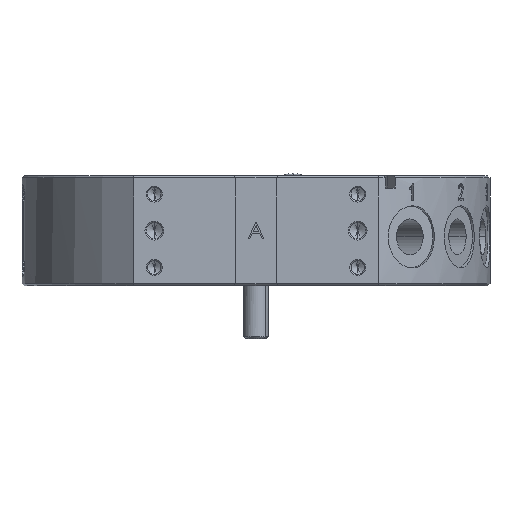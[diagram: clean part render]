
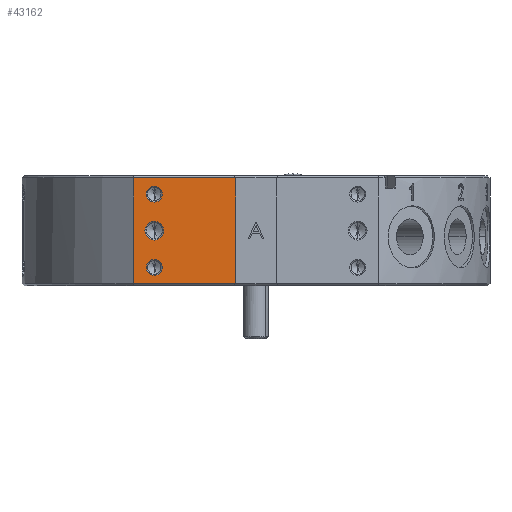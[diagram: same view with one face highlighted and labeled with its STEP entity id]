
A CAD part, front view. The second image highlights one B-rep face of the part: STEP entity #43162.
In plain terms, the highlighted planar face has unit normal (0, -1, 0).
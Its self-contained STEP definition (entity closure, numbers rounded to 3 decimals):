
#3 = DIRECTION ( 'NONE',  ( 0., 0., -1. ) ) ;
#58 = DIRECTION ( 'NONE',  ( 0., 1., 0. ) ) ;
#67 = CARTESIAN_POINT ( 'NONE',  ( -25., -49., -22.5 ) ) ;
#166 = CARTESIAN_POINT ( 'NONE',  ( -25., -49., -2.55 ) ) ;
#179 = ORIENTED_EDGE ( 'NONE', *, *, #15803, .T. ) ;
#205 = CARTESIAN_POINT ( 'NONE',  ( -5., -49., -37.77 ) ) ;
#262 = AXIS2_PLACEMENT_3D ( 'NONE', #26944, #26883, #26844 ) ;
#362 = DIRECTION ( 'NONE',  ( 0., 0., 1. ) ) ;
#1961 = DIRECTION ( 'NONE',  ( 0., 0., -1. ) ) ;
#2737 = CARTESIAN_POINT ( 'NONE',  ( -5., -49., -26.5 ) ) ;
#4836 = EDGE_LOOP ( 'NONE', ( #179, #25278 ) ) ;
#4874 = EDGE_CURVE ( 'NONE', #36311, #39656, #17503, .T. ) ;
#4991 = EDGE_LOOP ( 'NONE', ( #21405, #7159 ) ) ;
#5831 = DIRECTION ( 'NONE',  ( 0., 1., 0. ) ) ;
#5839 = CARTESIAN_POINT ( 'NONE',  ( -25., -49., -22.5 ) ) ;
#5935 = AXIS2_PLACEMENT_3D ( 'NONE', #67, #58, #3 ) ;
#5939 = EDGE_CURVE ( 'NONE', #24355, #23673, #40677, .T. ) ;
#6156 = EDGE_CURVE ( 'NONE', #36677, #24355, #37171, .T. ) ;
#6700 = AXIS2_PLACEMENT_3D ( 'NONE', #21615, #25518, #1961 ) ;
#7159 = ORIENTED_EDGE ( 'NONE', *, *, #4874, .T. ) ;
#7291 = CARTESIAN_POINT ( 'NONE',  ( -5., -49., -0.5 ) ) ;
#8124 = CIRCLE ( 'NONE', #5935, 1.95 ) ;
#9519 = EDGE_LOOP ( 'NONE', ( #34916, #37637, #26960, #28708 ) ) ;
#9551 = LINE ( 'NONE', #21506, #10726 ) ;
#10189 = FACE_BOUND ( 'NONE', #4991, .T. ) ;
#10361 = CARTESIAN_POINT ( 'NONE',  ( -30.087, -49., -26.5 ) ) ;
#10449 = AXIS2_PLACEMENT_3D ( 'NONE', #24957, #24858, #24626 ) ;
#10707 = VERTEX_POINT ( 'NONE', #40557 ) ;
#10726 = VECTOR ( 'NONE', #21288, 1000. ) ;
#10928 = FACE_BOUND ( 'NONE', #4836, .T. ) ;
#11538 = FACE_OUTER_BOUND ( 'NONE', #9519, .T. ) ;
#11579 = FACE_BOUND ( 'NONE', #25521, .T. ) ;
#11873 = VERTEX_POINT ( 'NONE', #40413 ) ;
#12181 = CIRCLE ( 'NONE', #37642, 1.95 ) ;
#12436 = AXIS2_PLACEMENT_3D ( 'NONE', #5839, #5831, #12629 ) ;
#12629 = DIRECTION ( 'NONE',  ( 0., 0., -1. ) ) ;
#14602 = EDGE_CURVE ( 'NONE', #23673, #10707, #9551, .T. ) ;
#14896 = EDGE_CURVE ( 'NONE', #20317, #32636, #12181, .T. ) ;
#15470 = DIRECTION ( 'NONE',  ( 0., 0., -1. ) ) ;
#15512 = DIRECTION ( 'NONE',  ( 0., 1., 0. ) ) ;
#15531 = CARTESIAN_POINT ( 'NONE',  ( -25., -49., -4.5 ) ) ;
#15747 = EDGE_CURVE ( 'NONE', #11873, #24075, #29207, .T. ) ;
#15803 = EDGE_CURVE ( 'NONE', #32636, #20317, #31248, .T. ) ;
#16947 = EDGE_CURVE ( 'NONE', #24075, #11873, #35082, .T. ) ;
#17503 = CIRCLE ( 'NONE', #12436, 1.95 ) ;
#17732 = DIRECTION ( 'NONE',  ( 0., 0., -1. ) ) ;
#17909 = DIRECTION ( 'NONE',  ( 0., 1., 0. ) ) ;
#18073 = CARTESIAN_POINT ( 'NONE',  ( -25., -49., -4.5 ) ) ;
#18166 = EDGE_CURVE ( 'NONE', #39656, #36311, #8124, .T. ) ;
#20317 = VERTEX_POINT ( 'NONE', #166 ) ;
#21288 = DIRECTION ( 'NONE',  ( -1., 0., 0. ) ) ;
#21405 = ORIENTED_EDGE ( 'NONE', *, *, #18166, .T. ) ;
#21506 = CARTESIAN_POINT ( 'NONE',  ( -30.087, -49., -0.5 ) ) ;
#21615 = CARTESIAN_POINT ( 'NONE',  ( -30.087, -49., -27. ) ) ;
#22585 = VECTOR ( 'NONE', #27214, 1000. ) ;
#23673 = VERTEX_POINT ( 'NONE', #7291 ) ;
#24075 = VERTEX_POINT ( 'NONE', #47441 ) ;
#24355 = VERTEX_POINT ( 'NONE', #2737 ) ;
#24626 = DIRECTION ( 'NONE',  ( 0., 0., -1. ) ) ;
#24739 = LINE ( 'NONE', #31041, #22585 ) ;
#24858 = DIRECTION ( 'NONE',  ( 0., 1., 0. ) ) ;
#24957 = CARTESIAN_POINT ( 'NONE',  ( -25., -49., -13.5 ) ) ;
#25083 = CARTESIAN_POINT ( 'NONE',  ( -25., -49., -6.45 ) ) ;
#25278 = ORIENTED_EDGE ( 'NONE', *, *, #14896, .T. ) ;
#25518 = DIRECTION ( 'NONE',  ( 0., -1., 0. ) ) ;
#25521 = EDGE_LOOP ( 'NONE', ( #49121, #41698 ) ) ;
#26844 = DIRECTION ( 'NONE',  ( 0., 0., -1. ) ) ;
#26883 = DIRECTION ( 'NONE',  ( 0., 1., 0. ) ) ;
#26944 = CARTESIAN_POINT ( 'NONE',  ( -25., -49., -13.5 ) ) ;
#26960 = ORIENTED_EDGE ( 'NONE', *, *, #46810, .F. ) ;
#27214 = DIRECTION ( 'NONE',  ( 0., 0., 1. ) ) ;
#28708 = ORIENTED_EDGE ( 'NONE', *, *, #6156, .T. ) ;
#28760 = AXIS2_PLACEMENT_3D ( 'NONE', #18073, #17909, #17732 ) ;
#29207 = CIRCLE ( 'NONE', #10449, 2.3 ) ;
#31041 = CARTESIAN_POINT ( 'NONE',  ( -30.087, -49., -27. ) ) ;
#31248 = CIRCLE ( 'NONE', #28760, 1.95 ) ;
#32285 = CARTESIAN_POINT ( 'NONE',  ( -25., -49., -24.45 ) ) ;
#32636 = VERTEX_POINT ( 'NONE', #25083 ) ;
#34916 = ORIENTED_EDGE ( 'NONE', *, *, #5939, .T. ) ;
#35082 = CIRCLE ( 'NONE', #262, 2.3 ) ;
#36086 = CARTESIAN_POINT ( 'NONE',  ( -5.5, -49., -26.5 ) ) ;
#36241 = DIRECTION ( 'NONE',  ( 1., 0., 0. ) ) ;
#36311 = VERTEX_POINT ( 'NONE', #38942 ) ;
#36677 = VERTEX_POINT ( 'NONE', #10361 ) ;
#36867 = VECTOR ( 'NONE', #36241, 1000. ) ;
#37171 = LINE ( 'NONE', #36086, #36867 ) ;
#37637 = ORIENTED_EDGE ( 'NONE', *, *, #14602, .T. ) ;
#37642 = AXIS2_PLACEMENT_3D ( 'NONE', #15531, #15512, #15470 ) ;
#38942 = CARTESIAN_POINT ( 'NONE',  ( -25., -49., -20.55 ) ) ;
#39656 = VERTEX_POINT ( 'NONE', #32285 ) ;
#40413 = CARTESIAN_POINT ( 'NONE',  ( -25., -49., -11.2 ) ) ;
#40557 = CARTESIAN_POINT ( 'NONE',  ( -30.087, -49., -0.5 ) ) ;
#40619 = VECTOR ( 'NONE', #362, 1000. ) ;
#40677 = LINE ( 'NONE', #205, #40619 ) ;
#41698 = ORIENTED_EDGE ( 'NONE', *, *, #15747, .T. ) ;
#43162 = ADVANCED_FACE ( 'NONE', ( #10189, #11579, #10928, #11538 ), #44330, .T. ) ;
#44330 = PLANE ( 'NONE',  #6700 ) ;
#46810 = EDGE_CURVE ( 'NONE', #36677, #10707, #24739, .T. ) ;
#47441 = CARTESIAN_POINT ( 'NONE',  ( -25., -49., -15.8 ) ) ;
#49121 = ORIENTED_EDGE ( 'NONE', *, *, #16947, .T. ) ;
